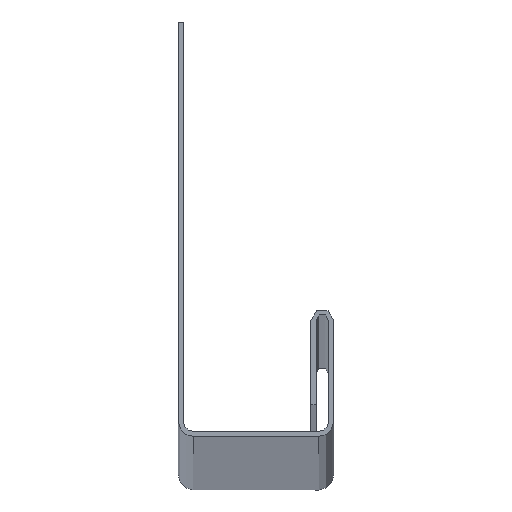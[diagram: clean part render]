
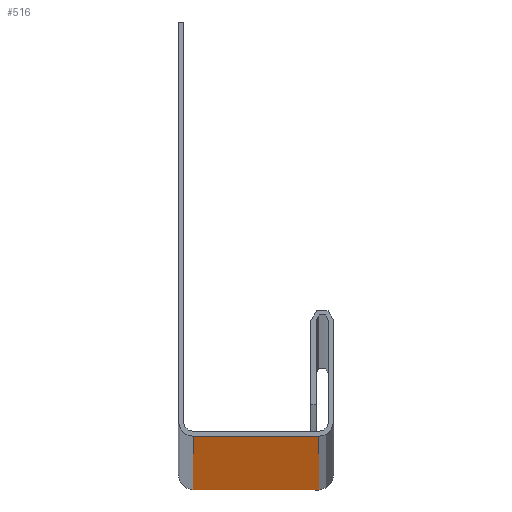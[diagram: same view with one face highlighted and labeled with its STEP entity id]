
A CAD part, top view. The second image highlights one B-rep face of the part: STEP entity #516.
In plain terms, the highlighted planar face has unit normal (0, -1, 0).
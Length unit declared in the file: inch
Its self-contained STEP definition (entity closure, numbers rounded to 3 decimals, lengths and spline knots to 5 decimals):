
#6 = CARTESIAN_POINT ( 'NONE',  ( 0.03937, -0.02, 0. ) ) ;
#14 = VECTOR ( 'NONE', #25, 39.37008 ) ;
#25 = DIRECTION ( 'NONE',  ( 0., 0., -1. ) ) ;
#30 = VERTEX_POINT ( 'NONE', #623 ) ;
#94 = LINE ( 'NONE', #6, #103 ) ;
#103 = VECTOR ( 'NONE', #592, 39.37008 ) ;
#115 = VERTEX_POINT ( 'NONE', #446 ) ;
#121 = LINE ( 'NONE', #208, #502 ) ;
#130 = AXIS2_PLACEMENT_3D ( 'NONE', #642, #627, #624 ) ;
#147 = ORIENTED_EDGE ( 'NONE', *, *, #357, .T. ) ;
#149 = CARTESIAN_POINT ( 'NONE',  ( 0.03937, -0.02, 120. ) ) ;
#172 = CARTESIAN_POINT ( 'NONE',  ( 0.03937, -0.02, 0. ) ) ;
#208 = CARTESIAN_POINT ( 'NONE',  ( 0.52984, -0.02, 120. ) ) ;
#213 = ORIENTED_EDGE ( 'NONE', *, *, #568, .F. ) ;
#217 = EDGE_CURVE ( 'NONE', #30, #335, #384, .T. ) ;
#237 = ORIENTED_EDGE ( 'NONE', *, *, #217, .T. ) ;
#261 = PLANE ( 'NONE',  #130 ) ;
#335 = VERTEX_POINT ( 'NONE', #172 ) ;
#338 = FACE_OUTER_BOUND ( 'NONE', #432, .T. ) ;
#356 = ORIENTED_EDGE ( 'NONE', *, *, #452, .F. ) ;
#357 = EDGE_CURVE ( 'NONE', #335, #115, #94, .T. ) ;
#384 = LINE ( 'NONE', #149, #14 ) ;
#417 = CARTESIAN_POINT ( 'NONE',  ( 0.03937, -0.02, 120. ) ) ;
#432 = EDGE_LOOP ( 'NONE', ( #147, #356, #213, #237 ) ) ;
#436 = LINE ( 'NONE', #417, #686 ) ;
#446 = CARTESIAN_POINT ( 'NONE',  ( 0.52984, -0.02, 0. ) ) ;
#448 = VERTEX_POINT ( 'NONE', #454 ) ;
#452 = EDGE_CURVE ( 'NONE', #448, #115, #121, .T. ) ;
#454 = CARTESIAN_POINT ( 'NONE',  ( 0.52984, -0.02, 120. ) ) ;
#502 = VECTOR ( 'NONE', #702, 39.37008 ) ;
#516 = ADVANCED_FACE ( 'NONE', ( #338 ), #261, .F. ) ;
#568 = EDGE_CURVE ( 'NONE', #30, #448, #436, .T. ) ;
#573 = DIRECTION ( 'NONE',  ( 1., 0., 0. ) ) ;
#592 = DIRECTION ( 'NONE',  ( 1., 0., 0. ) ) ;
#623 = CARTESIAN_POINT ( 'NONE',  ( 0.03937, -0.02, 120. ) ) ;
#624 = DIRECTION ( 'NONE',  ( 0., 0., 1. ) ) ;
#627 = DIRECTION ( 'NONE',  ( 0., 1., 0. ) ) ;
#642 = CARTESIAN_POINT ( 'NONE',  ( 0.03937, -0.02, 120. ) ) ;
#686 = VECTOR ( 'NONE', #573, 39.37008 ) ;
#702 = DIRECTION ( 'NONE',  ( 0., 0., -1. ) ) ;
